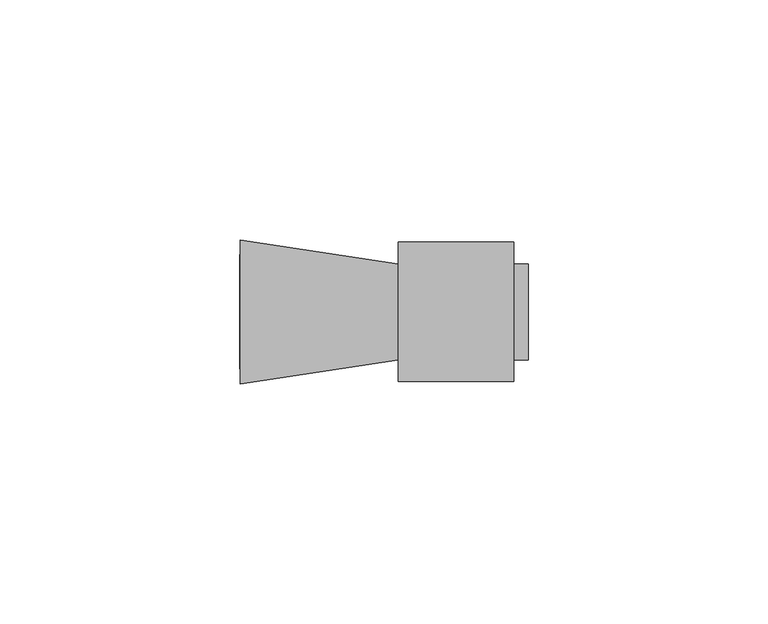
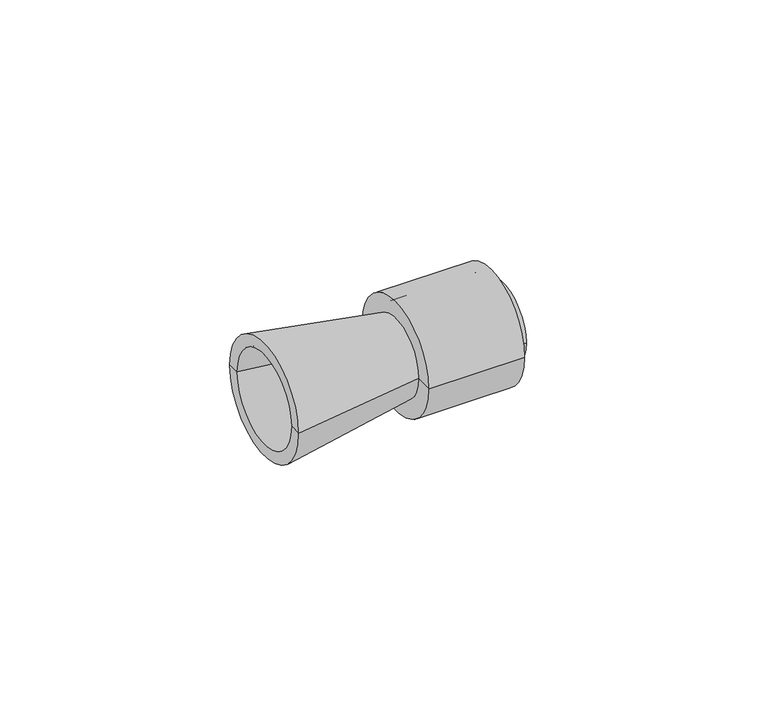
"""IFC4 building model written with IfcOpenShell, lengths in millimetres: cable carrier fitting geometry, КНС_ПереходникАрмированнаяТрубаЖесткаяТруба_IP67_DKC : Коробка."""

from ifc_helpers import new_model, si_unit, frame, origin, place, context, project, spatial, polyline, circle_curve, source, transform, mapped, element, save
from ifc_brep_helpers import plane_surface, cylinder_surface, revolved_surface, advanced_brep


def cable_carrier_fitting_5131cb3e(model_context):
    return source(origin(), model_context, "Body", "AdvancedBrep", [
        advanced_brep(
        [(-33.0, -15.0, 0.0), (-33.0, 15.0, 0.0), (0.0, 10.0, 0.0), (0.0, -10.0, 0.0), (-33.0, -11.9657601, 0.0), (-33.0, 11.9657601, 0.0), (0.0, -6.9657601, 0.0), (0.0, 6.9657601, 0.0)],
        [
            (0, 1, circle_curve(frame((-33.0, 0.0, 0.0), z_axis=(1.0, 0.0, 0.0), x_axis=(0.0, 1.0, 0.0)), 15.0)),
            (1, 2),
            (2, 3, circle_curve(frame((0.0, 0.0, 0.0), z_axis=(-1.0, 0.0, 0.0), x_axis=(0.0, 1.0, 0.0)), 10.0)),
            (3, 0),
            (1, 0, circle_curve(frame((-33.0, 0.0, 0.0), z_axis=(1.0, 0.0, 0.0), x_axis=(0.0, 1.0, 0.0)), 15.0)),
            (3, 2, circle_curve(frame((0.0, 0.0, 0.0), z_axis=(-1.0, 0.0, 0.0), x_axis=(0.0, 1.0, 0.0)), 10.0)),
            (4, 5, circle_curve(frame((-33.0, 0.0, 0.0), z_axis=(1.0, 0.0, 0.0), x_axis=(0.0, 1.0, 0.0)), 11.9657601)),
            (5, 1),
            (0, 4),
            (5, 4, circle_curve(frame((-33.0, 0.0, 0.0), z_axis=(1.0, 0.0, 0.0), x_axis=(0.0, 1.0, 0.0)), 11.9657601)),
            (6, 7, circle_curve(frame((0.0, 0.0, 0.0), z_axis=(1.0, 0.0, 0.0), x_axis=(0.0, 1.0, 0.0)), 6.9657601)),
            (7, 5),
            (4, 6),
            (7, 6, circle_curve(frame((0.0, 0.0, 0.0), z_axis=(1.0, 0.0, 0.0), x_axis=(0.0, 1.0, 0.0)), 6.9657601)),
            (2, 7),
            (6, 3),
        ],
        [
            revolved_surface(polyline([(0.0, 10.0, 0.0), (-33.0, 15.0, 0.0)]), (1518.0, 0.0, 0.0), (-1.0, 0.0, 0.0)),
            plane_surface(frame((-33.0, 0.0, 0.0), z_axis=(-1.0, 0.0, 0.0), x_axis=(0.0, 1.0, 0.0))),
            revolved_surface(polyline([(-33.0, 11.9657601, 0.0), (0.0, 6.9657601, 0.0)]), (1518.0, 0.0, 0.0), (-1.0, 0.0, 0.0)),
            plane_surface(frame((0.0, 0.0, 0.0), z_axis=(1.0, 0.0, 0.0), x_axis=(0.0, 1.0, 0.0))),
        ],
        [
            (0, [[1, 2, 3, 4]]),
            (0, [[5, -4, 6, -2]]),
            (1, [[7, 8, -1, 9]]),
            (1, [[10, -9, -5, -8]]),
            (2, [[11, 12, -7, 13]]),
            (2, [[14, -13, -10, -12]]),
            (3, [[-3, 15, -11, 16]]),
            (3, [[-6, -16, -14, -15]]),
        ],
    ),
        advanced_brep(
        [(3.0, -8.5, 0.0), (3.0, 8.5, 0.0), (3.0, 0.0, 0.0), (27.0, -8.5, 0.0), (27.0, 8.5, 0.0), (27.0, -10.0, 0.0), (27.0, 10.0, 0.0), (3.0, -10.0, 0.0), (3.0, 10.0, 0.0), (3.0, -11.7376891, 0.0), (3.0, 11.7376891, 0.0), (24.0, -11.7376891, 0.0), (24.0, 11.7376891, 0.0), (24.0, -14.5, 0.0), (24.0, 14.5, 0.0), (0.0, -14.5, 0.0), (0.0, 14.5, 0.0), (0.0, 0.0, 0.0)],
        [
            (0, 1, circle_curve(frame((3.0, 0.0, 0.0), z_axis=(1.0, 0.0, 0.0), x_axis=(0.0, 1.0, 0.0)), 8.5)),
            (1, 2),
            (2, 0),
            (1, 0, circle_curve(frame((3.0, 0.0, 0.0), z_axis=(1.0, 0.0, 0.0), x_axis=(0.0, 1.0, 0.0)), 8.5)),
            (3, 4, circle_curve(frame((27.0, 0.0, 0.0), z_axis=(1.0, 0.0, 0.0), x_axis=(0.0, 1.0, 0.0)), 8.5)),
            (4, 1),
            (0, 3),
            (4, 3, circle_curve(frame((27.0, 0.0, 0.0), z_axis=(1.0, 0.0, 0.0), x_axis=(0.0, 1.0, 0.0)), 8.5)),
            (5, 6, circle_curve(frame((27.0, 0.0, 0.0), z_axis=(1.0, 0.0, 0.0), x_axis=(0.0, 1.0, 0.0)), 10.0)),
            (6, 4),
            (3, 5),
            (6, 5, circle_curve(frame((27.0, 0.0, 0.0), z_axis=(1.0, 0.0, 0.0), x_axis=(0.0, 1.0, 0.0)), 10.0)),
            (7, 8, circle_curve(frame((3.0, 0.0, 0.0), z_axis=(1.0, 0.0, 0.0), x_axis=(0.0, 1.0, 0.0)), 10.0)),
            (8, 6),
            (5, 7),
            (8, 7, circle_curve(frame((3.0, 0.0, 0.0), z_axis=(1.0, 0.0, 0.0), x_axis=(0.0, 1.0, 0.0)), 10.0)),
            (9, 10, circle_curve(frame((3.0, 0.0, 0.0), z_axis=(1.0, 0.0, 0.0), x_axis=(0.0, 1.0, 0.0)), 11.7376891)),
            (10, 8),
            (7, 9),
            (10, 9, circle_curve(frame((3.0, 0.0, 0.0), z_axis=(1.0, 0.0, 0.0), x_axis=(0.0, 1.0, 0.0)), 11.7376891)),
            (11, 12, circle_curve(frame((24.0, 0.0, 0.0), z_axis=(1.0, 0.0, 0.0), x_axis=(0.0, 1.0, 0.0)), 11.7376891)),
            (12, 10),
            (9, 11),
            (12, 11, circle_curve(frame((24.0, 0.0, 0.0), z_axis=(1.0, 0.0, 0.0), x_axis=(0.0, 1.0, 0.0)), 11.7376891)),
            (13, 14, circle_curve(frame((24.0, 0.0, 0.0), z_axis=(1.0, 0.0, 0.0), x_axis=(0.0, 1.0, 0.0)), 14.5)),
            (14, 12),
            (11, 13),
            (14, 13, circle_curve(frame((24.0, 0.0, 0.0), z_axis=(1.0, 0.0, 0.0), x_axis=(0.0, 1.0, 0.0)), 14.5)),
            (15, 16, circle_curve(frame((0.0, 0.0, 0.0), z_axis=(1.0, 0.0, 0.0), x_axis=(0.0, 1.0, 0.0)), 14.5)),
            (16, 14),
            (13, 15),
            (16, 15, circle_curve(frame((0.0, 0.0, 0.0), z_axis=(1.0, 0.0, 0.0), x_axis=(0.0, 1.0, 0.0)), 14.5)),
            (17, 16),
            (15, 17),
        ],
        [
            plane_surface(frame((3.0, 0.0, 0.0), z_axis=(1.0, 0.0, 0.0), x_axis=(0.0, 1.0, 0.0))),
            revolved_surface(polyline([(3.0, 8.5, 0.0), (27.0, 8.5, 0.0)]), (1522.5, 0.0, 0.0), (-1.0, 0.0, 0.0)),
            plane_surface(frame((27.0, 0.0, 0.0), z_axis=(1.0, 0.0, 0.0), x_axis=(0.0, 1.0, 0.0))),
            cylinder_surface(frame((1522.5, 0.0, 0.0), z_axis=(-1.0, 0.0, 0.0), x_axis=(0.0, 1.0, 0.0)), 10.0),
            revolved_surface(polyline([(3.0, 11.7376891, 0.0), (24.0, 11.7376891, 0.0)]), (1522.5, 0.0, 0.0), (-1.0, 0.0, 0.0)),
            plane_surface(frame((24.0, 0.0, 0.0), z_axis=(1.0, 0.0, 0.0), x_axis=(0.0, 1.0, 0.0))),
            cylinder_surface(frame((1522.5, 0.0, 0.0), z_axis=(-1.0, 0.0, 0.0), x_axis=(0.0, 1.0, 0.0)), 14.5),
            plane_surface(frame((0.0, 0.0, 0.0), z_axis=(-1.0, 0.0, 0.0), x_axis=(0.0, 1.0, 0.0))),
        ],
        [
            (0, [[1, 2, 3]]),
            (0, [[4, -3, -2]]),
            (1, [[5, 6, -1, 7]]),
            (1, [[8, -7, -4, -6]]),
            (2, [[9, 10, -5, 11]]),
            (2, [[12, -11, -8, -10]]),
            (3, [[13, 14, -9, 15]]),
            (3, [[16, -15, -12, -14]]),
            (0, [[17, 18, -13, 19]]),
            (0, [[20, -19, -16, -18]]),
            (4, [[21, 22, -17, 23]]),
            (4, [[24, -23, -20, -22]]),
            (5, [[25, 26, -21, 27]]),
            (5, [[28, -27, -24, -26]]),
            (6, [[29, 30, -25, 31]]),
            (6, [[32, -31, -28, -30]]),
            (7, [[33, -29, 34]]),
            (7, [[-34, -32, -33]]),
        ],
    ),
    ])


if __name__ == "__main__":
    model = new_model("IFC4")
    model_context = context("Model", 3, world=origin())
    ifc_project = project(units=[si_unit("LENGTHUNIT", "METRE", prefix="MILLI")], contexts=[model_context])
    site = spatial("IfcSite", under=ifc_project)
    building = spatial("IfcBuilding", under=site)
    placement = place(None, origin())
    cable_carrier_fitting_shape = cable_carrier_fitting_5131cb3e(model_context)
    element("IfcCableCarrierFitting", 1, ObjectType="КНС_ПереходникАрмированнаяТрубаЖесткаяТруба_IP67_DKC : Коробка", at=placement, inside=building, context=model_context, shape_type="MappedRepresentation", body=[
        mapped(cable_carrier_fitting_shape, transform((0.0, 0.0, 0.0), x_axis=(1.0, 0.0, 0.0), y_axis=(0.0, 1.0, 0.0), z_axis=(0.0, 0.0, 1.0))),
    ])
    save(model, "model.ifc")
